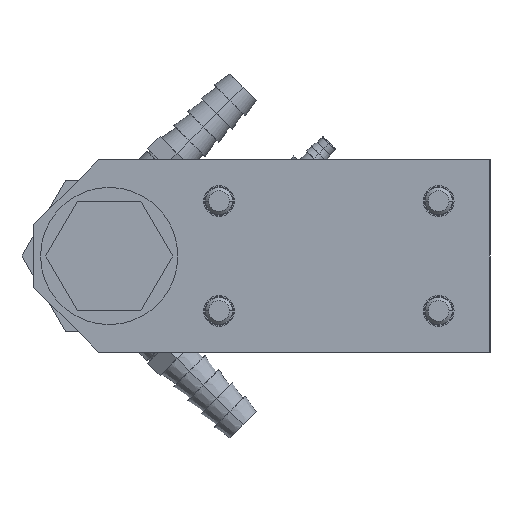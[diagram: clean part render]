
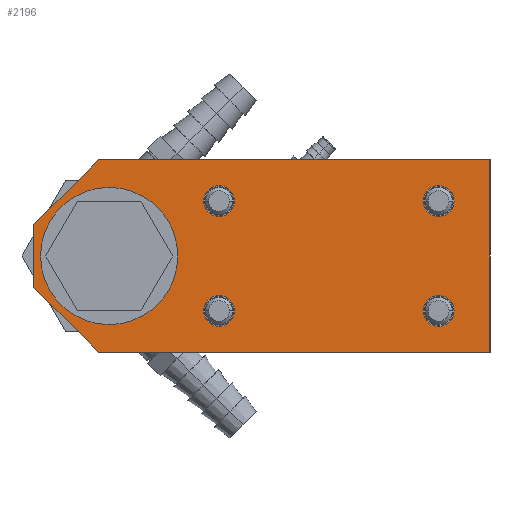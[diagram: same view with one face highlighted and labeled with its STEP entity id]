
A CAD part, left-side view. The second image highlights one B-rep face of the part: STEP entity #2196.
In plain terms, the highlighted planar face has unit normal (-1, 0, 0).
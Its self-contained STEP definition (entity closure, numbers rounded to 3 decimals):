
#1620=CARTESIAN_POINT('',(-3.192,-0.625,0.));
#1621=VERTEX_POINT('',#1620);
#1637=CARTESIAN_POINT('',(-3.192,0.625,0.));
#1638=VERTEX_POINT('',#1637);
#1645=CARTESIAN_POINT('',(-3.192,0.,0.));
#1646=DIRECTION('',(1.0,0.0,0.0));
#1647=DIRECTION('',(0.0,-1.0,0.0));
#1648=AXIS2_PLACEMENT_3D('',#1645,#1646,#1647);
#1649=CIRCLE('',#1648,0.625);
#1650=EDGE_CURVE('',#1621,#1638,#1649,.T.);
#1660=CARTESIAN_POINT('',(-3.192,-1.141,0.5));
#1661=VERTEX_POINT('',#1660);
#1670=CARTESIAN_POINT('',(-3.192,-0.859,0.5));
#1671=VERTEX_POINT('',#1670);
#1672=CARTESIAN_POINT('',(-3.192,-1.,0.5));
#1673=DIRECTION('',(1.0,0.0,0.0));
#1674=DIRECTION('',(0.0,-1.0,0.0));
#1675=AXIS2_PLACEMENT_3D('',#1672,#1673,#1674);
#1676=CIRCLE('',#1675,0.141);
#1677=EDGE_CURVE('',#1671,#1661,#1676,.T.);
#1702=CARTESIAN_POINT('',(-3.192,-3.141,0.5));
#1703=VERTEX_POINT('',#1702);
#1712=CARTESIAN_POINT('',(-3.192,-2.859,0.5));
#1713=VERTEX_POINT('',#1712);
#1714=CARTESIAN_POINT('',(-3.192,-3.,0.5));
#1715=DIRECTION('',(1.0,0.0,0.0));
#1716=DIRECTION('',(0.0,-1.0,0.0));
#1717=AXIS2_PLACEMENT_3D('',#1714,#1715,#1716);
#1718=CIRCLE('',#1717,0.141);
#1719=EDGE_CURVE('',#1713,#1703,#1718,.T.);
#1744=CARTESIAN_POINT('',(-3.192,-3.141,-0.5));
#1745=VERTEX_POINT('',#1744);
#1754=CARTESIAN_POINT('',(-3.192,-2.859,-0.5));
#1755=VERTEX_POINT('',#1754);
#1756=CARTESIAN_POINT('',(-3.192,-3.,-0.5));
#1757=DIRECTION('',(1.0,0.0,0.0));
#1758=DIRECTION('',(0.0,-1.0,0.0));
#1759=AXIS2_PLACEMENT_3D('',#1756,#1757,#1758);
#1760=CIRCLE('',#1759,0.141);
#1761=EDGE_CURVE('',#1755,#1745,#1760,.T.);
#1786=CARTESIAN_POINT('',(-3.192,-1.141,-0.5));
#1787=VERTEX_POINT('',#1786);
#1796=CARTESIAN_POINT('',(-3.192,-0.859,-0.5));
#1797=VERTEX_POINT('',#1796);
#1798=CARTESIAN_POINT('',(-3.192,-1.,-0.5));
#1799=DIRECTION('',(1.0,0.0,0.0));
#1800=DIRECTION('',(0.0,-1.0,0.0));
#1801=AXIS2_PLACEMENT_3D('',#1798,#1799,#1800);
#1802=CIRCLE('',#1801,0.141);
#1803=EDGE_CURVE('',#1797,#1787,#1802,.T.);
#1828=CARTESIAN_POINT('',(-3.192,0.688,-0.285));
#1829=VERTEX_POINT('',#1828);
#1846=CARTESIAN_POINT('',(-3.192,0.097,-0.875));
#1847=VERTEX_POINT('',#1846);
#1854=CARTESIAN_POINT('',(-3.192,0.097,-0.875));
#1855=DIRECTION('',(0.0,0.707,0.707));
#1856=VECTOR('',#1855,0.835);
#1857=LINE('',#1854,#1856);
#1858=EDGE_CURVE('',#1847,#1829,#1857,.T.);
#1966=CARTESIAN_POINT('',(-3.192,0.688,0.285));
#1967=VERTEX_POINT('',#1966);
#1968=CARTESIAN_POINT('',(-3.192,0.688,-0.285));
#1969=DIRECTION('',(0.0,0.0,1.0));
#1970=VECTOR('',#1969,0.57);
#1971=LINE('',#1968,#1970);
#1972=EDGE_CURVE('',#1829,#1967,#1971,.T.);
#1990=CARTESIAN_POINT('',(-3.192,0.097,0.875));
#1991=VERTEX_POINT('',#1990);
#1992=CARTESIAN_POINT('',(-3.192,0.688,0.285));
#1993=DIRECTION('',(0.0,-0.707,0.707));
#1994=VECTOR('',#1993,0.835);
#1995=LINE('',#1992,#1994);
#1996=EDGE_CURVE('',#1967,#1991,#1995,.T.);
#2014=CARTESIAN_POINT('',(-3.192,-3.467,0.875));
#2015=VERTEX_POINT('',#2014);
#2016=CARTESIAN_POINT('',(-3.192,0.097,0.875));
#2017=DIRECTION('',(0.0,-1.0,0.0));
#2018=VECTOR('',#2017,3.565);
#2019=LINE('',#2016,#2018);
#2020=EDGE_CURVE('',#1991,#2015,#2019,.T.);
#2040=CARTESIAN_POINT('',(-3.192,-1.,-0.5));
#2041=DIRECTION('',(1.0,0.0,0.0));
#2042=DIRECTION('',(0.0,-1.0,0.0));
#2043=AXIS2_PLACEMENT_3D('',#2040,#2041,#2042);
#2044=CIRCLE('',#2043,0.141);
#2045=EDGE_CURVE('',#1787,#1797,#2044,.T.);
#2058=CARTESIAN_POINT('',(-3.192,-3.,-0.5));
#2059=DIRECTION('',(1.0,0.0,0.0));
#2060=DIRECTION('',(0.0,-1.0,0.0));
#2061=AXIS2_PLACEMENT_3D('',#2058,#2059,#2060);
#2062=CIRCLE('',#2061,0.141);
#2063=EDGE_CURVE('',#1745,#1755,#2062,.T.);
#2076=CARTESIAN_POINT('',(-3.192,-3.,0.5));
#2077=DIRECTION('',(1.0,0.0,0.0));
#2078=DIRECTION('',(0.0,-1.0,0.0));
#2079=AXIS2_PLACEMENT_3D('',#2076,#2077,#2078);
#2080=CIRCLE('',#2079,0.141);
#2081=EDGE_CURVE('',#1703,#1713,#2080,.T.);
#2094=CARTESIAN_POINT('',(-3.192,-1.,0.5));
#2095=DIRECTION('',(1.0,0.0,0.0));
#2096=DIRECTION('',(0.0,-1.0,0.0));
#2097=AXIS2_PLACEMENT_3D('',#2094,#2095,#2096);
#2098=CIRCLE('',#2097,0.141);
#2099=EDGE_CURVE('',#1661,#1671,#2098,.T.);
#2110=CARTESIAN_POINT('',(-3.192,0.,0.));
#2111=DIRECTION('',(1.0,0.0,0.0));
#2112=DIRECTION('',(0.0,-1.0,0.0));
#2113=AXIS2_PLACEMENT_3D('',#2110,#2111,#2112);
#2114=CIRCLE('',#2113,0.625);
#2115=EDGE_CURVE('',#1638,#1621,#2114,.T.);
#2127=CARTESIAN_POINT('',(-3.192,-3.467,-0.875));
#2128=VERTEX_POINT('',#2127);
#2129=CARTESIAN_POINT('',(-3.192,-3.467,0.875));
#2130=DIRECTION('',(0.0,0.0,-1.0));
#2131=VECTOR('',#2130,1.75);
#2132=LINE('',#2129,#2131);
#2133=EDGE_CURVE('',#2015,#2128,#2132,.T.);
#2154=CARTESIAN_POINT('',(-3.192,-3.467,-0.875));
#2155=DIRECTION('',(0.0,1.0,0.0));
#2156=VECTOR('',#2155,3.565);
#2157=LINE('',#2154,#2156);
#2158=EDGE_CURVE('',#2128,#1847,#2157,.T.);
#2163=CARTESIAN_POINT('',(-3.192,-1.597,0.));
#2164=DIRECTION('',(1.0,0.0,0.0));
#2165=DIRECTION('',(0.0,-1.0,0.0));
#2166=AXIS2_PLACEMENT_3D('',#2163,#2164,#2165);
#2167=PLANE('',#2166);
#2168=ORIENTED_EDGE('',*,*,#1858,.F.);
#2169=ORIENTED_EDGE('',*,*,#2158,.F.);
#2170=ORIENTED_EDGE('',*,*,#2133,.F.);
#2171=ORIENTED_EDGE('',*,*,#2020,.F.);
#2172=ORIENTED_EDGE('',*,*,#1996,.F.);
#2173=ORIENTED_EDGE('',*,*,#1972,.F.);
#2174=EDGE_LOOP('',(#2168,#2169,#2170,#2171,#2172,#2173));
#2175=FACE_OUTER_BOUND('',#2174,.T.);
#2176=ORIENTED_EDGE('',*,*,#1803,.T.);
#2177=ORIENTED_EDGE('',*,*,#2045,.T.);
#2178=EDGE_LOOP('',(#2176,#2177));
#2179=FACE_BOUND('',#2178,.T.);
#2180=ORIENTED_EDGE('',*,*,#1761,.T.);
#2181=ORIENTED_EDGE('',*,*,#2063,.T.);
#2182=EDGE_LOOP('',(#2180,#2181));
#2183=FACE_BOUND('',#2182,.T.);
#2184=ORIENTED_EDGE('',*,*,#1719,.T.);
#2185=ORIENTED_EDGE('',*,*,#2081,.T.);
#2186=EDGE_LOOP('',(#2184,#2185));
#2187=FACE_BOUND('',#2186,.T.);
#2188=ORIENTED_EDGE('',*,*,#1677,.T.);
#2189=ORIENTED_EDGE('',*,*,#2099,.T.);
#2190=EDGE_LOOP('',(#2188,#2189));
#2191=FACE_BOUND('',#2190,.T.);
#2192=ORIENTED_EDGE('',*,*,#2115,.T.);
#2193=ORIENTED_EDGE('',*,*,#1650,.T.);
#2194=EDGE_LOOP('',(#2192,#2193));
#2195=FACE_BOUND('',#2194,.T.);
#2196=ADVANCED_FACE('',(#2175,#2179,#2183,#2187,#2191,#2195),#2167,.F.);
